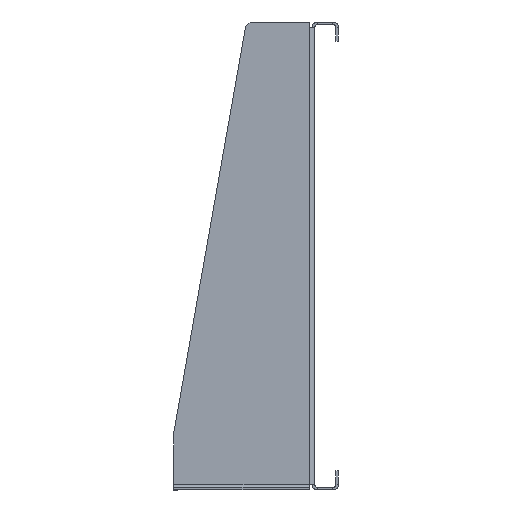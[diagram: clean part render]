
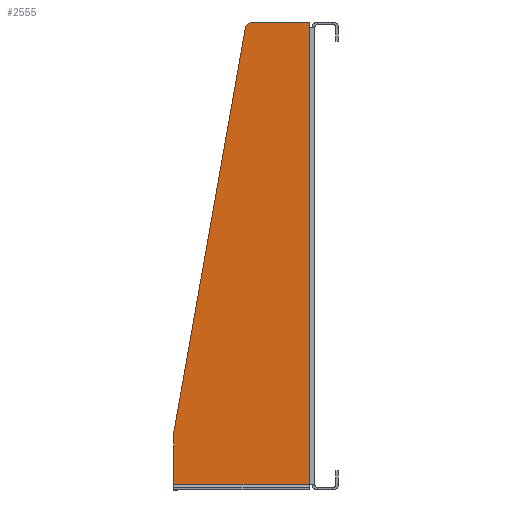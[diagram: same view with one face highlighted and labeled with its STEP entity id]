
A CAD part, left-side view. The second image highlights one B-rep face of the part: STEP entity #2555.
In plain terms, the highlighted planar face has unit normal (-1, 0, 0).
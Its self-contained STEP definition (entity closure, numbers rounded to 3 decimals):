
#1131 = FACE_OUTER_BOUND ( 'NONE', #7036, .T. ) ;
#1264 = AXIS2_PLACEMENT_3D ( 'NONE', #4380, #4378, #4377 ) ;
#1751 = EDGE_CURVE ( 'NONE', #8468, #8427, #9626, .T. ) ;
#1755 = EDGE_CURVE ( 'NONE', #8390, #8412, #9801, .T. ) ;
#1766 = EDGE_CURVE ( 'NONE', #8412, #8393, #9569, .T. ) ;
#1767 = EDGE_CURVE ( 'NONE', #8390, #8468, #10220, .T. ) ;
#1769 = EDGE_CURVE ( 'NONE', #8427, #8413, #10377, .T. ) ;
#1770 = EDGE_CURVE ( 'NONE', #8385, #8413, #9605, .T. ) ;
#1774 = EDGE_CURVE ( 'NONE', #8385, #8393, #9856, .T. ) ;
#2555 = ADVANCED_FACE ( 'NONE', ( #1131 ), #4382, .T. ) ;
#2779 = VECTOR ( 'NONE', #10327, 1000. ) ;
#2780 = VECTOR ( 'NONE', #9939, 1000. ) ;
#2911 = VECTOR ( 'NONE', #9973, 1000. ) ;
#2945 = VECTOR ( 'NONE', #9702, 1000. ) ;
#2998 = VECTOR ( 'NONE', #9741, 1000. ) ;
#3042 = VECTOR ( 'NONE', #10284, 1000. ) ;
#3064 = VECTOR ( 'NONE', #9586, 1000. ) ;
#3315 = CARTESIAN_POINT ( 'NONE',  ( -221., 75.4, -95. ) ) ;
#3332 = CARTESIAN_POINT ( 'NONE',  ( -221., 36.935, 122.538 ) ) ;
#3335 = CARTESIAN_POINT ( 'NONE',  ( -221., 2.9, 122.1 ) ) ;
#3357 = CARTESIAN_POINT ( 'NONE',  ( -221., 2.9, 125. ) ) ;
#3361 = CARTESIAN_POINT ( 'NONE',  ( -221., 2.9, -122.1 ) ) ;
#3369 = CARTESIAN_POINT ( 'NONE',  ( -221., 34., 125. ) ) ;
#4377 = DIRECTION ( 'NONE',  ( 0., -1., 0. ) ) ;
#4378 = DIRECTION ( 'NONE',  ( -1., 0., 0. ) ) ;
#4380 = CARTESIAN_POINT ( 'NONE',  ( -221., 1.4, 125. ) ) ;
#4382 = PLANE ( 'NONE',  #1264 ) ;
#6232 = ORIENTED_EDGE ( 'NONE', *, *, #1774, .F. ) ;
#6233 = ORIENTED_EDGE ( 'NONE', *, *, #1770, .T. ) ;
#6234 = ORIENTED_EDGE ( 'NONE', *, *, #1769, .F. ) ;
#6235 = ORIENTED_EDGE ( 'NONE', *, *, #1767, .F. ) ;
#6236 = ORIENTED_EDGE ( 'NONE', *, *, #1755, .T. ) ;
#6237 = ORIENTED_EDGE ( 'NONE', *, *, #1766, .T. ) ;
#6242 = ORIENTED_EDGE ( 'NONE', *, *, #1751, .F. ) ;
#7036 = EDGE_LOOP ( 'NONE', ( #6232, #6233, #6234, #6242, #6235, #6236, #6237 ) ) ;
#8385 = VERTEX_POINT ( 'NONE', #3369 ) ;
#8390 = VERTEX_POINT ( 'NONE', #3361 ) ;
#8393 = VERTEX_POINT ( 'NONE', #3357 ) ;
#8412 = VERTEX_POINT ( 'NONE', #3335 ) ;
#8413 = VERTEX_POINT ( 'NONE', #3332 ) ;
#8427 = VERTEX_POINT ( 'NONE', #3315 ) ;
#8468 = VERTEX_POINT ( 'NONE', #10608 ) ;
#9395 = CARTESIAN_POINT ( 'NONE',  ( -221., 14.862, 141.051 ) ) ;
#9569 = LINE ( 'NONE', #9576, #3064 ) ;
#9576 = CARTESIAN_POINT ( 'NONE',  ( -221., 2.9, 125. ) ) ;
#9586 = DIRECTION ( 'NONE',  ( 0., 0., 1. ) ) ;
#9605 = LINE ( 'NONE', #9395, #2780 ) ;
#9626 = LINE ( 'NONE', #9644, #2945 ) ;
#9644 = CARTESIAN_POINT ( 'NONE',  ( -221., 75.4, 125. ) ) ;
#9669 = CARTESIAN_POINT ( 'NONE',  ( -221., 2.9, 125. ) ) ;
#9702 = DIRECTION ( 'NONE',  ( 0., 0., 1. ) ) ;
#9741 = DIRECTION ( 'NONE',  ( 0., -1., 0. ) ) ;
#9801 = LINE ( 'NONE', #9669, #2911 ) ;
#9856 = LINE ( 'NONE', #9928, #2998 ) ;
#9928 = CARTESIAN_POINT ( 'NONE',  ( -221., 1.4, 125. ) ) ;
#9939 = DIRECTION ( 'NONE',  ( 0., 0.766, -0.643 ) ) ;
#9973 = DIRECTION ( 'NONE',  ( 0., 0., 1. ) ) ;
#10203 = CARTESIAN_POINT ( 'NONE',  ( -221., 2.9, -122.1 ) ) ;
#10220 = LINE ( 'NONE', #10203, #3042 ) ;
#10269 = CARTESIAN_POINT ( 'NONE',  ( -221., 75.4, -95. ) ) ;
#10284 = DIRECTION ( 'NONE',  ( 0., 1., 0. ) ) ;
#10327 = DIRECTION ( 'NONE',  ( 0., -0.174, 0.985 ) ) ;
#10377 = LINE ( 'NONE', #10269, #2779 ) ;
#10608 = CARTESIAN_POINT ( 'NONE',  ( -221., 75.4, -122.1 ) ) ;
